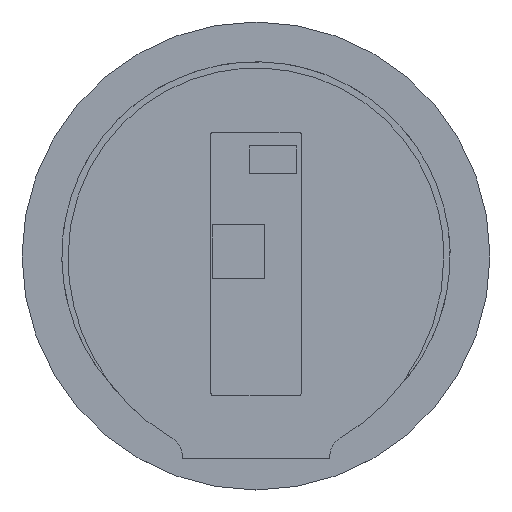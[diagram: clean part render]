
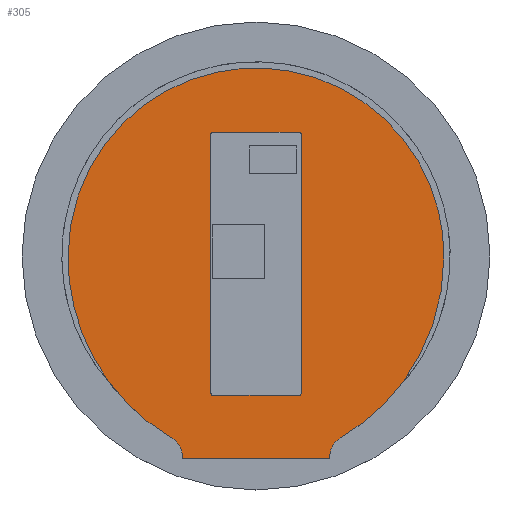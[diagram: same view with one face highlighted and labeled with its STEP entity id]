
A CAD part, top view. The second image highlights one B-rep face of the part: STEP entity #305.
In plain terms, the highlighted planar face has unit normal (0, 0, 1).
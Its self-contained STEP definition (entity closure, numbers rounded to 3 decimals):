
#274=PLANE('',#689);
#305=ADVANCED_FACE('',(#344),#274,.F.);
#344=FACE_OUTER_BOUND('',#376,.T.);
#376=EDGE_LOOP('',(#516,#517,#518,#519,#520));
#516=ORIENTED_EDGE('',*,*,#617,.F.);
#517=ORIENTED_EDGE('',*,*,#630,.F.);
#518=ORIENTED_EDGE('',*,*,#627,.F.);
#519=ORIENTED_EDGE('',*,*,#624,.F.);
#520=ORIENTED_EDGE('',*,*,#621,.F.);
#567=VERTEX_POINT('',#991);
#568=VERTEX_POINT('',#992);
#571=VERTEX_POINT('',#1020);
#573=VERTEX_POINT('',#1042);
#575=VERTEX_POINT('',#1079);
#617=EDGE_CURVE('',#567,#568,#651,.T.);
#621=EDGE_CURVE('',#568,#571,#654,.T.);
#624=EDGE_CURVE('',#571,#573,#656,.T.);
#627=EDGE_CURVE('',#573,#575,#659,.T.);
#630=EDGE_CURVE('',#575,#567,#661,.T.);
#651=(
BOUNDED_CURVE()
B_SPLINE_CURVE(4,(#982,#983,#984,#985,#986,#987,#988,#989,#990),
 .UNSPECIFIED.,.F.,.F.)
B_SPLINE_CURVE_WITH_KNOTS((5,4,5),(0.,0.9,1.),
 .UNSPECIFIED.)
CURVE()
GEOMETRIC_REPRESENTATION_ITEM()
RATIONAL_B_SPLINE_CURVE((0.536,0.5,0.488,0.5,0.536,
0.536,0.536,0.536,0.536))
REPRESENTATION_ITEM('')
);
#654=(
BOUNDED_CURVE()
B_SPLINE_CURVE(4,(#1015,#1016,#1017,#1018,#1019),.UNSPECIFIED.,.F.,.F.)
B_SPLINE_CURVE_WITH_KNOTS((5,5),(0.,1.),.UNSPECIFIED.)
CURVE()
GEOMETRIC_REPRESENTATION_ITEM()
RATIONAL_B_SPLINE_CURVE((0.536,0.536,0.536,
0.536,0.536))
REPRESENTATION_ITEM('')
);
#656=(
BOUNDED_CURVE()
B_SPLINE_CURVE(4,(#1029,#1030,#1031,#1032,#1033,#1034,#1035,#1036,#1037,
#1038,#1039,#1040,#1041),.UNSPECIFIED.,.F.,.F.)
B_SPLINE_CURVE_WITH_KNOTS((5,4,4,5),(0.,0.012,0.109,
1.),.UNSPECIFIED.)
CURVE()
GEOMETRIC_REPRESENTATION_ITEM()
RATIONAL_B_SPLINE_CURVE((0.536,0.536,0.536,
0.536,0.536,0.5,0.488,0.5,
0.536,0.499,0.487,0.499,
0.536))
REPRESENTATION_ITEM('')
);
#659=(
BOUNDED_CURVE()
B_SPLINE_CURVE(4,(#1071,#1072,#1073,#1074,#1075,#1076,#1077,#1078),
 .UNSPECIFIED.,.F.,.F.)
B_SPLINE_CURVE_WITH_KNOTS((5,3,5),(0.,0.5,1.),.UNSPECIFIED.)
CURVE()
GEOMETRIC_REPRESENTATION_ITEM()
RATIONAL_B_SPLINE_CURVE((0.536,0.536,0.505,
0.536,0.536,0.505,0.536,0.536))
REPRESENTATION_ITEM('')
);
#661=(
BOUNDED_CURVE()
B_SPLINE_CURVE(4,(#1091,#1092,#1093,#1094,#1095),.UNSPECIFIED.,.F.,.F.)
B_SPLINE_CURVE_WITH_KNOTS((5,5),(0.,1.),.UNSPECIFIED.)
CURVE()
GEOMETRIC_REPRESENTATION_ITEM()
RATIONAL_B_SPLINE_CURVE((0.536,0.499,0.487,
0.499,0.536))
REPRESENTATION_ITEM('')
);
#689=AXIS2_PLACEMENT_3D('',#1103,#761,#762);
#761=DIRECTION('',(0.,0.,-1.));
#762=DIRECTION('',(-1.,0.,0.));
#982=CARTESIAN_POINT('',(866.198,-59.211,0.));
#983=CARTESIAN_POINT('',(864.813,-60.017,0.));
#984=CARTESIAN_POINT('',(863.76,-61.26,0.));
#985=CARTESIAN_POINT('',(863.214,-62.795,0.));
#986=CARTESIAN_POINT('',(863.214,-64.398,0.));
#987=CARTESIAN_POINT('',(863.214,-64.576,0.));
#988=CARTESIAN_POINT('',(863.214,-64.754,0.));
#989=CARTESIAN_POINT('',(863.214,-64.933,0.));
#990=CARTESIAN_POINT('',(863.214,-65.111,0.));
#991=CARTESIAN_POINT('',(866.198,-59.211,0.));
#992=CARTESIAN_POINT('',(863.214,-65.111,0.));
#1015=CARTESIAN_POINT('',(863.214,-65.111,0.));
#1016=CARTESIAN_POINT('',(852.864,-65.111,0.));
#1017=CARTESIAN_POINT('',(842.514,-65.111,0.));
#1018=CARTESIAN_POINT('',(832.164,-65.111,0.));
#1019=CARTESIAN_POINT('',(821.814,-65.111,0.));
#1020=CARTESIAN_POINT('',(821.814,-65.111,0.));
#1029=CARTESIAN_POINT('',(821.814,-65.111,0.));
#1030=CARTESIAN_POINT('',(821.814,-64.933,0.));
#1031=CARTESIAN_POINT('',(821.814,-64.754,0.));
#1032=CARTESIAN_POINT('',(821.814,-64.576,0.));
#1033=CARTESIAN_POINT('',(821.814,-64.398,0.));
#1034=CARTESIAN_POINT('',(821.814,-62.795,0.));
#1035=CARTESIAN_POINT('',(821.268,-61.26,0.));
#1036=CARTESIAN_POINT('',(820.215,-60.017,0.));
#1037=CARTESIAN_POINT('',(818.83,-59.211,0.));
#1038=CARTESIAN_POINT('',(805.182,-51.275,0.));
#1039=CARTESIAN_POINT('',(794.846,-38.992,0.));
#1040=CARTESIAN_POINT('',(789.566,-23.833,0.));
#1041=CARTESIAN_POINT('',(789.714,-8.046,0.));
#1042=CARTESIAN_POINT('',(789.714,-8.046,0.));
#1071=CARTESIAN_POINT('',(789.714,-8.046,0.));
#1072=CARTESIAN_POINT('',(789.714,10.622,0.));
#1073=CARTESIAN_POINT('',(799.048,35.42,0.));
#1074=CARTESIAN_POINT('',(823.846,44.754,0.));
#1075=CARTESIAN_POINT('',(861.182,44.754,0.));
#1076=CARTESIAN_POINT('',(885.98,35.42,0.));
#1077=CARTESIAN_POINT('',(895.314,10.622,0.));
#1078=CARTESIAN_POINT('',(895.314,-8.046,0.));
#1079=CARTESIAN_POINT('',(895.314,-8.046,0.));
#1091=CARTESIAN_POINT('',(895.314,-8.046,0.));
#1092=CARTESIAN_POINT('',(895.462,-23.833,0.));
#1093=CARTESIAN_POINT('',(890.182,-38.992,0.));
#1094=CARTESIAN_POINT('',(879.846,-51.275,0.));
#1095=CARTESIAN_POINT('',(866.198,-59.211,0.));
#1103=CARTESIAN_POINT('',(863.845,-61.72,0.));
